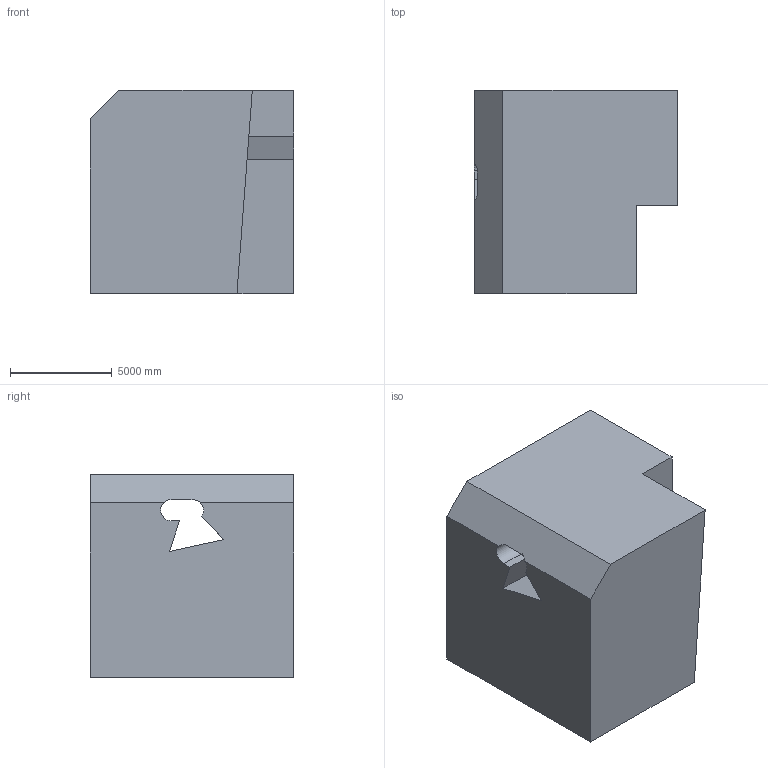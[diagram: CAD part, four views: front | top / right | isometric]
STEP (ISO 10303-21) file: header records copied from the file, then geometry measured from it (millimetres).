
FILE_DESCRIPTION (( 'STEP AP203' ), '1' );
FILE_NAME ('1484.STEP', '2022-08-18T14:45:23', ( 'user' ), ( '' ), 'SwSTEP 2.0', 'SolidWorks 2021', '' );
FILE_SCHEMA (( 'CONFIG_CONTROL_DESIGN' ));
Length unit declared in the file: centimetre
Products named in the file (1): 1484
Bounding box: 10000 x 10000 x 10000 mm (x, y, z)
Volume: 840166964131.4 mm3; surface area: 664860860.8 mm2
Topology: 1 solids, 1 shells, 21 faces, 60 edges, 40 vertices
Faces by surface type: plane 19, cylinder 2
Entity records: 759 total; most frequent: CARTESIAN_POINT 128, ORIENTED_EDGE 120, DIRECTION 106, EDGE_CURVE 60, LINE 54, VECTOR 54, VERTEX_POINT 40, AXIS2_PLACEMENT_3D 26
